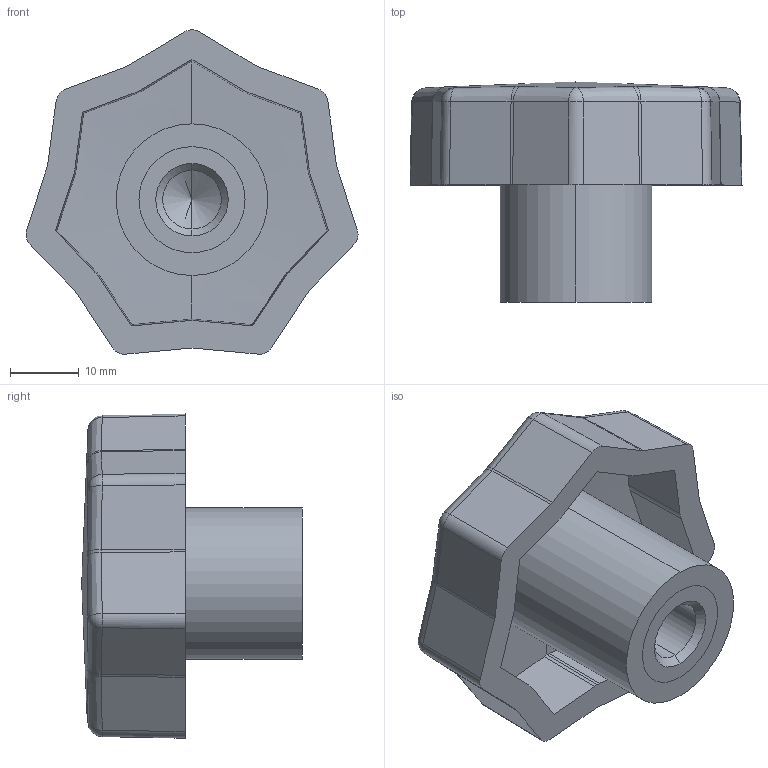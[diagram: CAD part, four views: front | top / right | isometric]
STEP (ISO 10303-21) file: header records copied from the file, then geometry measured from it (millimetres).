
FILE_DESCRIPTION (( 'STEP AP203' ), '1' );
FILE_NAME ('AP-1020-50-M10.STEP', '2015-11-23T10:13:37', ( '' ), ( '' ), 'SwSTEP 2.0', 'SolidWorks 2014', '' );
FILE_SCHEMA (( 'CONFIG_CONTROL_DESIGN' ));
Length unit declared in the file: millimetre
Products named in the file (1): AP-1020-50-M10
Bounding box: 48.17 x 32 x 47.06 mm (x, y, z)
Surface area: 13265.2 mm2 (no closed solid volume)
Topology: 0 solids, 3 shells, 124 faces, 292 edges, 178 vertices
Faces by surface type: cylinder 48, plane 40, bspline 21, cone 8, sphere 7
Entity records: 3764 total; most frequent: CARTESIAN_POINT 1098, ORIENTED_EDGE 574, DIRECTION 488, EDGE_CURVE 288, AXIS2_PLACEMENT_3D 188, VERTEX_POINT 178, EDGE_LOOP 133, ADVANCED_FACE 124
